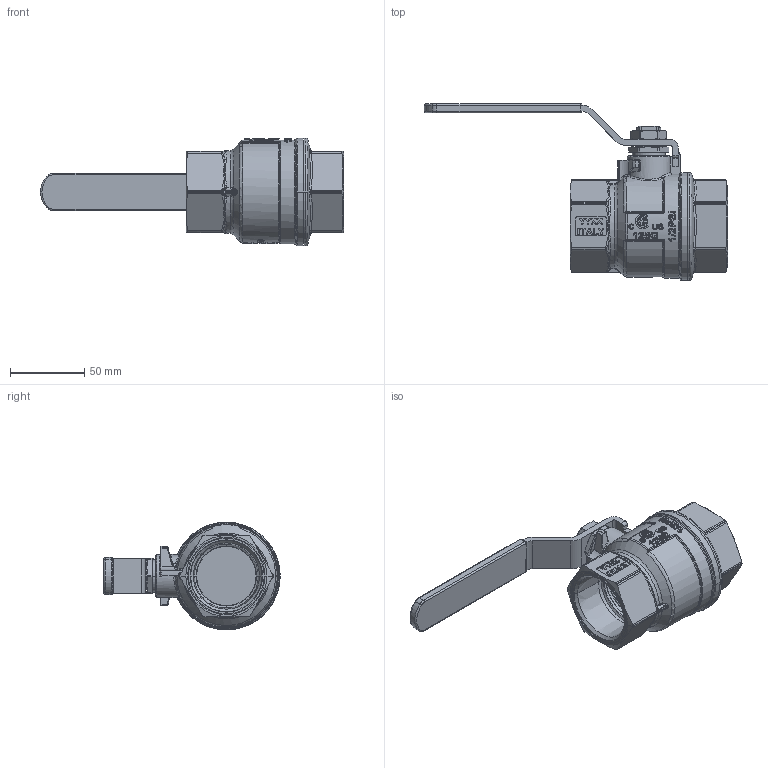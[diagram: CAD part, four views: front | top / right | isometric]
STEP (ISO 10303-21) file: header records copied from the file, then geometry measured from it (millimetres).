
FILE_DESCRIPTION((''),'2;1');
FILE_NAME('T100NE_11-2P_ASM','2020-08-27T09:56:04',('sergio.dandrea'),(''),'CREO PARAMETRIC BY PTC INC, 2019471','CREO PARAMETRIC BY PTC INC, 2019471','');
FILE_SCHEMA(('CONFIG_CONTROL_DESIGN'));
Products named in the file (15): 88095; SEDE_PTFE_F40; 87183; OR_115_AF0; OR_115_AF1; ASTA_50_2_O-RING_ASM; AN_PTFE_SF_50_AF0; 87184; 88060; 88098; 87137; GRIP_LEVA_ACCIAIO_150MM; LEVA_ACCIAIO_150MM_GRIP_ASM; 01040; T100NE_11-2P_ASM
Assembly tree (15 placements, depth 3):
  T100NE_11-2P_ASM
    88095
    SEDE_PTFE_F40  x2
    ASTA_50_2_O-RING_ASM
      87183
      OR_115_AF0
      OR_115_AF1
    AN_PTFE_SF_50_AF0
    87184
    88060
    88098
    LEVA_ACCIAIO_150MM_GRIP_ASM
      87137
      GRIP_LEVA_ACCIAIO_150MM
    01040
Bounding box: 204 x 118.75 x 72.5 mm (x, y, z)
Volume: 182517.9 mm3; surface area: 129506.7 mm2
Topology: 13 solids, 25 shells, 1841 faces, 4760 edges, 3016 vertices
Faces by surface type: bspline 492, extrusion 463, plane 344, cylinder 274, cone 114, torus 98, sphere 40, revolution 16
Entity records: 80819 total; most frequent: CARTESIAN_POINT 41262, ORIENTED_EDGE 9392, DIRECTION 5736, EDGE_CURVE 4726, VERTEX_POINT 3000, B_SPLINE_CURVE_WITH_KNOTS 2692, VECTOR 2034, EDGE_LOOP 1927
